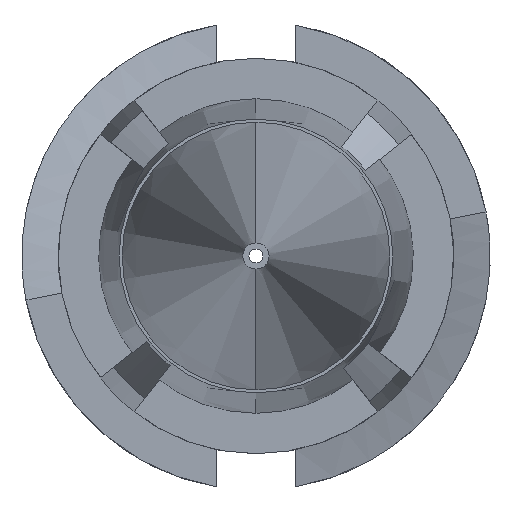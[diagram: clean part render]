
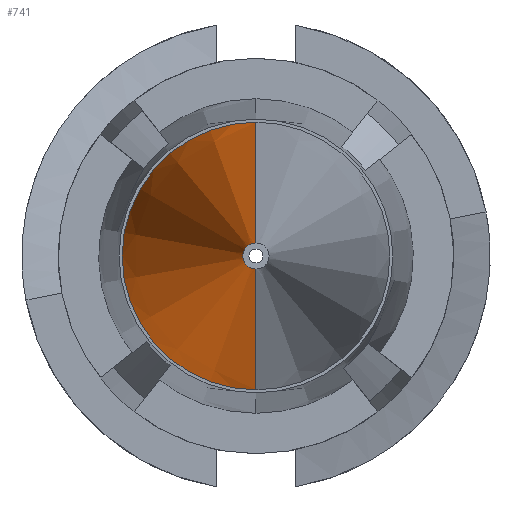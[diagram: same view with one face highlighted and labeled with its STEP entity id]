
A CAD part, left-side view. The second image highlights one B-rep face of the part: STEP entity #741.
In plain terms, the highlighted conical face has half-angle 6.399 degrees and reference radius 2.2 mm.
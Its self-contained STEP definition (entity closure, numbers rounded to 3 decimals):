
#2 = AXIS2_PLACEMENT_3D ( 'NONE', #1067, #867, #504 ) ;
#29 = EDGE_CURVE ( 'NONE', #1228, #1369, #324, .T. ) ;
#162 = VERTEX_POINT ( 'NONE', #264 ) ;
#209 = ORIENTED_EDGE ( 'NONE', *, *, #342, .T. ) ;
#221 = DIRECTION ( 'NONE',  ( 0.994, 0., -0.111 ) ) ;
#254 = ORIENTED_EDGE ( 'NONE', *, *, #1336, .F. ) ;
#264 = CARTESIAN_POINT ( 'NONE',  ( -31.7, 0., -0.215 ) ) ;
#324 = CIRCLE ( 'NONE', #1558, 2.2 ) ;
#342 = EDGE_CURVE ( 'NONE', #787, #1369, #1858, .T. ) ;
#430 = CARTESIAN_POINT ( 'NONE',  ( -14., 0., 2.2 ) ) ;
#454 = CIRCLE ( 'NONE', #2, 0.215 ) ;
#458 = CARTESIAN_POINT ( 'NONE',  ( -14., 0., 0. ) ) ;
#464 = DIRECTION ( 'NONE',  ( 0.994, 0., 0.111 ) ) ;
#504 = DIRECTION ( 'NONE',  ( 0., 0., -1. ) ) ;
#535 = CARTESIAN_POINT ( 'NONE',  ( -14., 0., -2.2 ) ) ;
#598 = VECTOR ( 'NONE', #464, 1000. ) ;
#678 = VECTOR ( 'NONE', #221, 1000. ) ;
#741 = ADVANCED_FACE ( 'NONE', ( #752 ), #984, .T. ) ;
#752 = FACE_OUTER_BOUND ( 'NONE', #815, .T. ) ;
#778 = CARTESIAN_POINT ( 'NONE',  ( -14., 0., 0. ) ) ;
#787 = VERTEX_POINT ( 'NONE', #1064 ) ;
#815 = EDGE_LOOP ( 'NONE', ( #1653, #209, #1324, #254 ) ) ;
#867 = DIRECTION ( 'NONE',  ( 1., 0., 0. ) ) ;
#884 = DIRECTION ( 'NONE',  ( 1., 0., 0. ) ) ;
#901 = DIRECTION ( 'NONE',  ( 0., 0., -1. ) ) ;
#939 = CARTESIAN_POINT ( 'NONE',  ( -14., 0., -2.2 ) ) ;
#984 = CONICAL_SURFACE ( 'NONE', #1343, 2.2, 0.112 ) ;
#1064 = CARTESIAN_POINT ( 'NONE',  ( -31.7, 0., 0.215 ) ) ;
#1067 = CARTESIAN_POINT ( 'NONE',  ( -31.7, 0., 0. ) ) ;
#1191 = DIRECTION ( 'NONE',  ( 1., 0., 0. ) ) ;
#1228 = VERTEX_POINT ( 'NONE', #939 ) ;
#1288 = CARTESIAN_POINT ( 'NONE',  ( -14., 0., 2.2 ) ) ;
#1324 = ORIENTED_EDGE ( 'NONE', *, *, #29, .F. ) ;
#1336 = EDGE_CURVE ( 'NONE', #162, #1228, #1669, .T. ) ;
#1343 = AXIS2_PLACEMENT_3D ( 'NONE', #778, #1191, #901 ) ;
#1369 = VERTEX_POINT ( 'NONE', #430 ) ;
#1463 = DIRECTION ( 'NONE',  ( 0., 0., -1. ) ) ;
#1473 = EDGE_CURVE ( 'NONE', #162, #787, #454, .T. ) ;
#1558 = AXIS2_PLACEMENT_3D ( 'NONE', #458, #884, #1463 ) ;
#1653 = ORIENTED_EDGE ( 'NONE', *, *, #1473, .T. ) ;
#1669 = LINE ( 'NONE', #535, #678 ) ;
#1858 = LINE ( 'NONE', #1288, #598 ) ;
